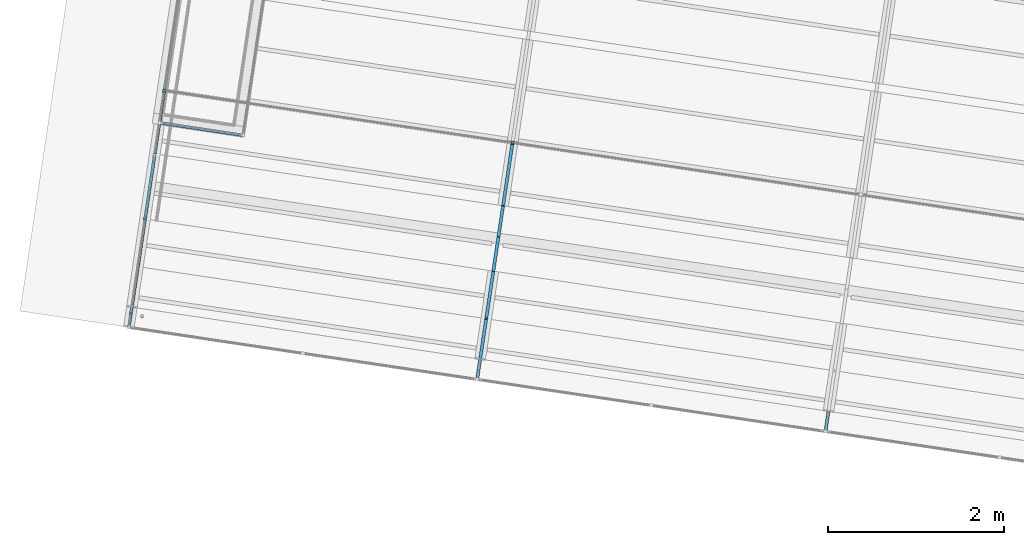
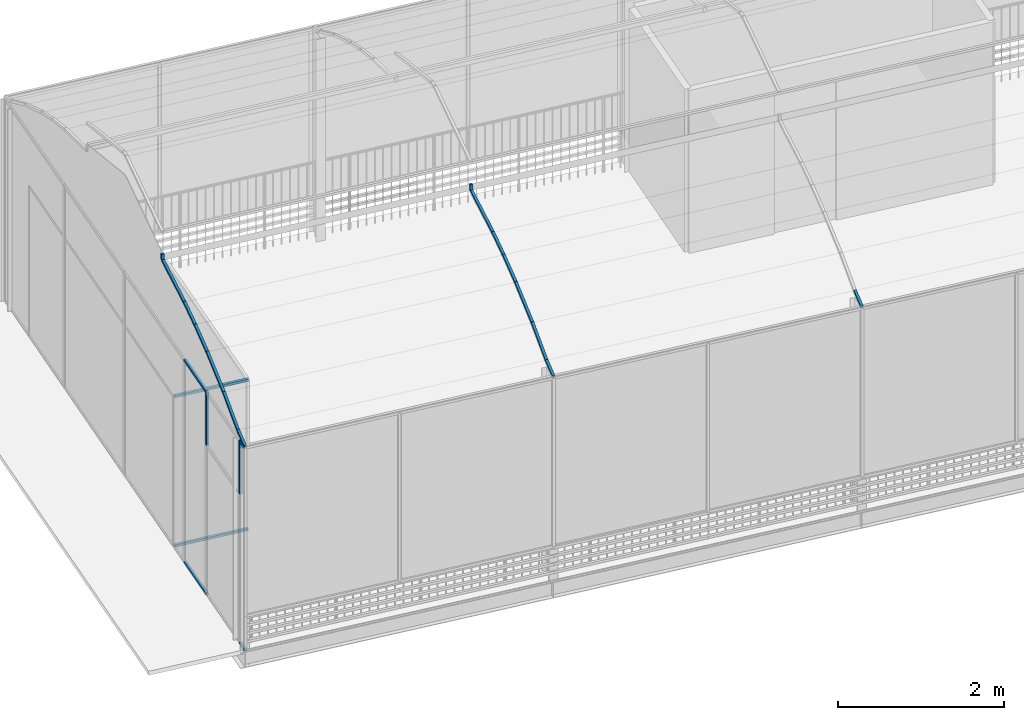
# One storey, part 18 of 34: 23 members, 1 element without a shape of its own.
"""IFC4 building model written with IfcOpenShell, lengths in metres."""

import ifcopenshell
import ifcopenshell.guid

model = None  # the IFC model being written
_history = None  # IfcOwnerHistory: only IFC2X3 demands one
_inside = {}  # id of a spatial element -> (the spatial element, [elements in it])
_under = {}  # id of a project, library or spatial element -> (it, [spatial elements below it])
_declared = {}  # id of a project -> (the project, [libraries it declares])
_typed = {}  # id of a type object -> (the type object, [elements of that type])
_made_of = {}  # id of a material, layer set ... -> (it, [elements and type objects made of it])


def new_model(schema):
    """Start an empty IFC model of exactly this schema.

    Asked for "IFC4X3", IfcOpenShell would pick the latest addendum, in which some entities
    have other attributes; the version numbers below select the first issue.
    IFC2X3 requires an IfcOwnerHistory on every rooted entity: one is made here for all.
    """
    global model, _history
    if schema == "IFC4X3":
        model = ifcopenshell.file(schema_version=(4, 3, 0, 0))
    else:
        model = ifcopenshell.file(schema=schema)
    _inside.clear()
    _under.clear()
    _declared.clear()
    _typed.clear()
    _made_of.clear()
    _history = None
    if model.schema == "IFC2X3":
        org = make("IfcOrganization", Name="unknown")
        user = make(
            "IfcPersonAndOrganization",
            ThePerson=make("IfcPerson", FamilyName="unknown"),
            TheOrganization=org,
        )
        app = make(
            "IfcApplication",
            ApplicationDeveloper=org,
            Version="unknown",
            ApplicationFullName="unknown",
            ApplicationIdentifier="unknown",
        )
        _history = make(
            "IfcOwnerHistory",
            OwningUser=user,
            OwningApplication=app,
            ChangeAction="ADDED",
            CreationDate=0,
        )
    return model


def make(cls, **values):
    """One entity of the class cls with the attributes given. An attribute that is None is left unset."""
    return model.create_entity(
        cls, **{name: value for name, value in values.items() if value is not None}
    )


def rooted(cls, **values):
    """An entity with a GlobalId (a new one), such as an element, a storey or a relation."""
    return make(cls, GlobalId=ifcopenshell.guid.new(), OwnerHistory=_history, **values)


def si_unit(unit_type, name, prefix=None):
    """IfcSIUnit, for example si_unit("LENGTHUNIT", "METRE", prefix="MILLI")."""
    return make("IfcSIUnit", UnitType=unit_type, Prefix=prefix, Name=name)


def assignment(units):
    """IfcUnitAssignment: the units of a project."""
    return None if units is None else make("IfcUnitAssignment", Units=units)


def point(xyz):
    """IfcCartesianPoint."""
    return None if xyz is None else make("IfcCartesianPoint", Coordinates=xyz)


def direction(xyz):
    """IfcDirection."""
    return None if xyz is None else make("IfcDirection", DirectionRatios=xyz)


def frame(location, z_axis=None, x_axis=None):
    """IfcAxis2Placement3D, a coordinate frame: its origin and axes. An axis left out is left unset."""
    return make(
        "IfcAxis2Placement3D",
        Location=point(location),
        Axis=direction(z_axis),
        RefDirection=direction(x_axis),
    )


def origin_with_axes():
    """The frame at (0, 0, 0) with the z axis (0, 0, 1) and the x axis (1, 0, 0) written out."""
    return frame((0.0, 0.0, 0.0), z_axis=(0.0, 0.0, 1.0), x_axis=(1.0, 0.0, 0.0))


def place(relative_to, where):
    """IfcLocalPlacement: puts the frame where relative to a parent placement (None: the world)."""
    return make(
        "IfcLocalPlacement", PlacementRelTo=relative_to, RelativePlacement=where
    )


def context(
    kind, dimensions, precision=None, world=None, true_north=None, identifier=None
):
    """IfcGeometricRepresentationContext, for example the 3D "Model" context."""
    return make(
        "IfcGeometricRepresentationContext",
        ContextIdentifier=identifier,
        ContextType=kind,
        CoordinateSpaceDimension=dimensions,
        Precision=precision,
        WorldCoordinateSystem=world,
        TrueNorth=true_north,
    )


def subcontext(parent, identifier, kind, view, scale=None):
    """IfcGeometricRepresentationSubContext, for example "Body" below "Model"."""
    return make(
        "IfcGeometricRepresentationSubContext",
        ContextIdentifier=identifier,
        ContextType=kind,
        ParentContext=parent,
        TargetScale=scale,
        TargetView=view,
    )


def project(units=None, contexts=None):
    """IfcProject with its units and contexts."""
    return rooted(
        "IfcProject",
        Name="project",
        RepresentationContexts=contexts,
        UnitsInContext=assignment(units),
    )


def spatial(cls, under=None, at=None, **own):
    """A site, building, storey or space (cls), placed at a placement, below another one or the project."""
    s = rooted(cls, ObjectPlacement=at, **own)
    if under is not None:
        _under.setdefault(under.id(), (under, []))[1].append(s)
    return s


def profile(cls, at=None, kind="AREA", **sizes):
    """A parametric profile (cls). Its sizes go by their IFC names, for example OverallWidth=200.0."""
    return make(cls, ProfileType=kind, Position=at, **sizes)


def rectangle(**sizes):
    """IfcRectangleProfileDef."""
    return profile("IfcRectangleProfileDef", **sizes)


def extrude(swept, where, along, depth):
    """IfcExtrudedAreaSolid: the profile swept, set in the frame where, extruded along a direction by depth."""
    return make(
        "IfcExtrudedAreaSolid",
        SweptArea=swept,
        Position=where,
        ExtrudedDirection=direction(along),
        Depth=depth,
    )


def shape(context_of_items, identifier, shape_type, items):
    """IfcShapeRepresentation: the items that make up one representation, for example the "Body"."""
    return make(
        "IfcShapeRepresentation",
        ContextOfItems=context_of_items,
        RepresentationIdentifier=identifier,
        RepresentationType=shape_type,
        Items=items,
    )


def material(Name=None, Category=None):
    """IfcMaterial."""
    return make("IfcMaterial", Name=Name, Category=Category)


def material_profile(
    of_material, cross_section, Name=None, Category=None, Priority=None
):
    """IfcMaterialProfile: a cross section and its material."""
    return make(
        "IfcMaterialProfile",
        Name=Name,
        Material=of_material,
        Profile=cross_section,
        Priority=Priority,
        Category=Category,
    )


def profile_set(profiles, Name=None, composite=None):
    """IfcMaterialProfileSet."""
    return make(
        "IfcMaterialProfileSet",
        Name=Name,
        MaterialProfiles=profiles,
        CompositeProfile=composite,
    )


def profile_usage(for_profile_set, cardinal=None, extent=None):
    """IfcMaterialProfileSetUsage: how a profile set lies along its element."""
    return make(
        "IfcMaterialProfileSetUsage",
        ForProfileSet=for_profile_set,
        CardinalPoint=cardinal,
        ReferenceExtent=extent,
    )


def made_of(thing, what):
    """Note that an element or type object is made of a material, layer set ...; save() writes the relation."""
    if what is not None:
        _made_of.setdefault(what.id(), (what, []))[1].append(thing)
    return thing


def type_object(cls, material=None, **own):
    """A type object (cls), such as IfcWallType, which elements share."""
    return made_of(rooted(cls, **own), material)


def element(
    cls,
    number,
    at=None,
    inside=None,
    cuts=None,
    type_object=None,
    material=None,
    context=None,
    identifier="Body",
    shape_type=None,
    held_by="IfcProductDefinitionShape",
    body=None,
    shapes=None,
    **own,
):
    """One element of the class cls, such as IfcWall. Its Tag is "e" and its number.

    at: its placement. inside: the storey or other place that contains it. cuts: it is an
    opening in that element (IfcRelVoidsElement). A single representation is given by context,
    identifier, shape_type and body (its items); several are given by shapes. held_by: the class
    of the entity that holds the representations. save() writes the other relations.
    """
    e = rooted(cls, Tag="e%d" % number, ObjectPlacement=at, **own)
    if body is not None:
        shapes = [shape(context, identifier, shape_type, body)]
    if shapes is not None:
        e.Representation = make(held_by, Representations=shapes)
    if inside is not None:
        _inside.setdefault(inside.id(), (inside, []))[1].append(e)
    if cuts is not None:
        rooted(
            "IfcRelVoidsElement", RelatingBuildingElement=cuts, RelatedOpeningElement=e
        )
    if type_object is not None:
        _typed.setdefault(type_object.id(), (type_object, []))[1].append(e)
    return made_of(e, material)


def aggregate(whole, parts):
    """IfcRelAggregates: a whole, such as a stair, and the parts it consists of."""
    return rooted("IfcRelAggregates", RelatingObject=whole, RelatedObjects=parts)


def save(model, path):
    """Write the relations noted so far, then the file.

    IfcRelAggregates (storeys below a building ...), IfcRelContainedInSpatialStructure (elements
    in a storey), IfcRelDefinesByType, IfcRelAssociatesMaterial and IfcRelDeclares: one each for
    every whole, place, type object, material and project.
    """
    for whole, parts in _under.values():
        aggregate(whole, parts)
    for where, things in _inside.values():
        rooted(
            "IfcRelContainedInSpatialStructure",
            RelatedElements=things,
            RelatingStructure=where,
        )
    for kind, things in _typed.values():
        rooted("IfcRelDefinesByType", RelatedObjects=things, RelatingType=kind)
    for what, things in _made_of.values():
        rooted("IfcRelAssociatesMaterial", RelatedObjects=things, RelatingMaterial=what)
    for by, libraries in _declared.values():
        rooted("IfcRelDeclares", RelatingContext=by, RelatedDefinitions=libraries)
    model.write(path)


model = new_model("IFC4")

# Units and contexts
model_context = context("Model", 3, precision=1e-05, world=origin_with_axes(), true_north=direction((0.0, 1.0)))
body_context = subcontext(model_context, "Body", "Model", "MODEL_VIEW")
ifc_project = project(units=[si_unit("LENGTHUNIT", "METRE"), si_unit("AREAUNIT", "SQUARE_METRE"), si_unit("VOLUMEUNIT", "CUBIC_METRE")], contexts=[model_context])

# Site, building, storey
site_placement = place(None, origin_with_axes())
site = spatial("IfcSite", under=ifc_project, at=site_placement, Name="Lares · Rua das Mercês · artigo 4771")
building_placement = place(site_placement, frame((15.0, 9.7, 14.65), z_axis=(0.0, 0.0, 1.0), x_axis=(0.989015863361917, -0.147809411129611, 0.0)))
building = spatial("IfcBuilding", under=site, at=building_placement, Name="Casa Sobreposta")
storey_placement = place(building_placement, frame((0.0, 0.0, 3.24), z_axis=(0.0, 0.0, 1.0), x_axis=(1.0, 0.0, 0.0)))
storey = spatial("IfcBuildingStorey", under=building, at=storey_placement, Name="01 · Jardim de inverno", Elevation=17.89)

# Members
ifc_material_1 = material(Name="Aço pintado / Stahl lackiert", Category="steel")
ifc_material_profile = material_profile(ifc_material_1, rectangle(XDim=0.035, YDim=0.035))
ifc_profile_set = profile_set([ifc_material_profile], Name="R0.035")
ifc_profile_usage_1 = profile_usage(ifc_profile_set)
member_type = type_object("IfcMemberType", Name="R0.035 / steel", PredefinedType="NOTDEFINED", material=ifc_profile_set)
member_1_placement = place(storey_placement, frame((0.0, -1.35, 2.2), z_axis=(0.0, 0.0, 1.0), x_axis=(1.0, 0.0, 0.0)))
element("IfcMember", 1, at=member_1_placement, inside=storey, type_object=member_type, material=ifc_profile_usage_1, Name="Varanda · bandeira da porta · montante", context=body_context, shape_type="SweptSolid", body=[
    extrude(rectangle(XDim=0.035, YDim=0.035), origin_with_axes(), (0.0, 0.0, 1.0), 0.78),
])
ifc_profile_usage_2 = profile_usage(ifc_profile_set)
member_2_placement = place(storey_placement, frame((0.0, -0.25, 2.2), z_axis=(0.0, 0.0, 1.0), x_axis=(1.0, 0.0, 0.0)))
element("IfcMember", 2, at=member_2_placement, inside=storey, type_object=member_type, material=ifc_profile_usage_2, Name="Varanda · bandeira da porta · montante", context=body_context, shape_type="SweptSolid", body=[
    extrude(rectangle(XDim=0.035, YDim=0.035), origin_with_axes(), (0.0, 0.0, 1.0), 0.78),
])
ifc_profile_usage_3 = profile_usage(ifc_profile_set)
member_3_placement = place(storey_placement, frame((0.0, -1.5, 0.0), z_axis=(0.0, 1.0, 0.0), x_axis=(1.0, 0.0, 0.0)))
element("IfcMember", 3, at=member_3_placement, inside=storey, type_object=member_type, material=ifc_profile_usage_3, Name="Varanda · vidro lateral · travessa", context=body_context, shape_type="SweptSolid", body=[
    extrude(rectangle(XDim=0.035, YDim=0.035), origin_with_axes(), (0.0, 0.0, 1.0), 0.15),
])
ifc_profile_usage_4 = profile_usage(ifc_profile_set)
member_4_placement = place(storey_placement, frame((0.0, -1.5, 2.98), z_axis=(0.0, 1.0, 0.0), x_axis=(1.0, 0.0, 0.0)))
element("IfcMember", 4, at=member_4_placement, inside=storey, type_object=member_type, material=ifc_profile_usage_4, Name="Varanda · vidro lateral · travessa", context=body_context, shape_type="SweptSolid", body=[
    extrude(rectangle(XDim=0.035, YDim=0.035), origin_with_axes(), (0.0, 0.0, 1.0), 0.15),
])
ifc_profile_usage_5 = profile_usage(ifc_profile_set)
member_5_placement = place(storey_placement, frame((0.0, -0.25, 0.0), z_axis=(0.0, 1.0, 0.0), x_axis=(1.0, 0.0, 0.0)))
element("IfcMember", 5, at=member_5_placement, inside=storey, type_object=member_type, material=ifc_profile_usage_5, Name="Varanda · vidro lateral · travessa", context=body_context, shape_type="SweptSolid", body=[
    extrude(rectangle(XDim=0.035, YDim=0.035), origin_with_axes(), (0.0, 0.0, 1.0), 0.725),
])
ifc_profile_usage_6 = profile_usage(ifc_profile_set)
member_6_placement = place(storey_placement, frame((0.0, -0.25, 2.98), z_axis=(0.0, 1.0, 0.0), x_axis=(1.0, 0.0, 0.0)))
element("IfcMember", 6, at=member_6_placement, inside=storey, type_object=member_type, material=ifc_profile_usage_6, Name="Varanda · vidro lateral · travessa", context=body_context, shape_type="SweptSolid", body=[
    extrude(rectangle(XDim=0.035, YDim=0.035), origin_with_axes(), (0.0, 0.0, 1.0), 0.725),
])

# Roof, members
ifc_material_2 = material(Name="Vidro / Normalglas", Category="glass")
roof_placement = place(storey_placement, frame((0.0, 0.0, -3.24), z_axis=(0.0, 0.0, 1.0), x_axis=(1.0, 0.0, 0.0)))
roof = element("IfcRoof", 7, at=roof_placement, inside=storey, material=ifc_material_2, Name="Cobertura translúcida da estufa", PredefinedType="BARREL_ROOF")
ifc_profile_usage_7 = profile_usage(ifc_profile_set)
member_7_placement = place(roof_placement, frame((0.0, -1.5, 6.23430000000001), z_axis=(0.0, 0.932991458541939, 0.35989851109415), x_axis=(1.0, 0.0, 0.0)))
member_7 = element("IfcMember", 8, at=member_7_placement, type_object=member_type, material=ifc_profile_usage_7, Name="Arco estufa 0/0", context=body_context, shape_type="SweptSolid", body=[
    extrude(rectangle(XDim=0.035, YDim=0.035), origin_with_axes(), (0.0, 0.0, 1.0), 0.249032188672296),
])
ifc_profile_usage_8 = profile_usage(ifc_profile_set)
member_8_placement = place(roof_placement, frame((4.0, -1.5, 6.23430000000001), z_axis=(0.0, 0.932991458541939, 0.35989851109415), x_axis=(1.0, 0.0, 0.0)))
member_8 = element("IfcMember", 9, at=member_8_placement, type_object=member_type, material=ifc_profile_usage_8, Name="Arco estufa 4/0", context=body_context, shape_type="SweptSolid", body=[
    extrude(rectangle(XDim=0.035, YDim=0.035), origin_with_axes(), (0.0, 0.0, 1.0), 0.249032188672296),
])
ifc_profile_usage_9 = profile_usage(ifc_profile_set)
member_9_placement = place(roof_placement, frame((8.0, -1.5, 6.23430000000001), z_axis=(0.0, 0.932991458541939, 0.35989851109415), x_axis=(1.0, 0.0, 0.0)))
member_9 = element("IfcMember", 10, at=member_9_placement, type_object=member_type, material=ifc_profile_usage_9, Name="Arco estufa 8/0", context=body_context, shape_type="SweptSolid", body=[
    extrude(rectangle(XDim=0.035, YDim=0.035), origin_with_axes(), (0.0, 0.0, 1.0), 0.249032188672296),
])
ifc_profile_usage_10 = profile_usage(ifc_profile_set)
member_10_placement = place(roof_placement, frame((0.0, -1.26765509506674, 6.32392631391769), z_axis=(0.0, 0.878851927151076, 0.477094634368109), x_axis=(1.0, 0.0, 0.0)))
member_10 = element("IfcMember", 11, at=member_10_placement, type_object=member_type, material=ifc_profile_usage_10, Name="Arco estufa 0/1", context=body_context, shape_type="SweptSolid", body=[
    extrude(rectangle(XDim=0.035, YDim=0.035), origin_with_axes(), (0.0, 0.0, 1.0), 0.52863528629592),
])
ifc_profile_usage_11 = profile_usage(ifc_profile_set)
member_11_placement = place(roof_placement, frame((4.0, -1.26765509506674, 6.32392631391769), z_axis=(0.0, 0.878851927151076, 0.477094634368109), x_axis=(1.0, 0.0, 0.0)))
member_11 = element("IfcMember", 12, at=member_11_placement, type_object=member_type, material=ifc_profile_usage_11, Name="Arco estufa 4/1", context=body_context, shape_type="SweptSolid", body=[
    extrude(rectangle(XDim=0.035, YDim=0.035), origin_with_axes(), (0.0, 0.0, 1.0), 0.52863528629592),
])
ifc_profile_usage_12 = profile_usage(ifc_profile_set)
member_12_placement = place(roof_placement, frame((0.0, -0.803062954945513, 6.57613537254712), z_axis=(0.0, 0.915885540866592, 0.401439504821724), x_axis=(1.0, 0.0, 0.0)))
member_12 = element("IfcMember", 13, at=member_12_placement, type_object=member_type, material=ifc_profile_usage_12, Name="Arco estufa 0/2", context=body_context, shape_type="SweptSolid", body=[
    extrude(rectangle(XDim=0.035, YDim=0.035), origin_with_axes(), (0.0, 0.0, 1.0), 0.596771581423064),
])
ifc_profile_usage_13 = profile_usage(ifc_profile_set)
member_13_placement = place(roof_placement, frame((4.0, -0.803062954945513, 6.57613537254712), z_axis=(0.0, 0.915885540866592, 0.401439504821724), x_axis=(1.0, 0.0, 0.0)))
member_13 = element("IfcMember", 14, at=member_13_placement, type_object=member_type, material=ifc_profile_usage_13, Name="Arco estufa 4/2", context=body_context, shape_type="SweptSolid", body=[
    extrude(rectangle(XDim=0.035, YDim=0.035), origin_with_axes(), (0.0, 0.0, 1.0), 0.596771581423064),
])
ifc_profile_usage_14 = profile_usage(ifc_profile_set)
member_14_placement = place(roof_placement, frame((0.0, -0.256488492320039, 6.81570306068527), z_axis=(0.0, 0.942820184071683, 0.333301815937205), x_axis=(1.0, 0.0, 0.0)))
member_14 = element("IfcMember", 15, at=member_14_placement, type_object=member_type, material=ifc_profile_usage_14, Name="Arco estufa 0/3", context=body_context, shape_type="SweptSolid", body=[
    extrude(rectangle(XDim=0.035, YDim=0.035), origin_with_axes(), (0.0, 0.0, 1.0), 0.423025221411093),
])
ifc_profile_usage_15 = profile_usage(ifc_profile_set)
member_15_placement = place(roof_placement, frame((4.0, -0.256488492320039, 6.81570306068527), z_axis=(0.0, 0.942820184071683, 0.333301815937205), x_axis=(1.0, 0.0, 0.0)))
member_15 = element("IfcMember", 16, at=member_15_placement, type_object=member_type, material=ifc_profile_usage_15, Name="Arco estufa 4/3", context=body_context, shape_type="SweptSolid", body=[
    extrude(rectangle(XDim=0.035, YDim=0.035), origin_with_axes(), (0.0, 0.0, 1.0), 0.423025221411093),
])
ifc_profile_usage_16 = profile_usage(ifc_profile_set)
member_16_placement = place(roof_placement, frame((0.0, 0.142348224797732, 6.95669813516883), z_axis=(0.0, 0.959692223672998, 0.281053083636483), x_axis=(1.0, 0.0, 0.0)))
member_16 = element("IfcMember", 17, at=member_16_placement, type_object=member_type, material=ifc_profile_usage_16, Name="Arco estufa 0/4", context=body_context, shape_type="SweptSolid", body=[
    extrude(rectangle(XDim=0.035, YDim=0.035), origin_with_axes(), (0.0, 0.0, 1.0), 0.365557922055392),
])
ifc_profile_usage_17 = profile_usage(ifc_profile_set)
member_17_placement = place(roof_placement, frame((4.0, 0.142348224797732, 6.95669813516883), z_axis=(0.0, 0.959692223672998, 0.281053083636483), x_axis=(1.0, 0.0, 0.0)))
member_17 = element("IfcMember", 18, at=member_17_placement, type_object=member_type, material=ifc_profile_usage_17, Name="Arco estufa 4/4", context=body_context, shape_type="SweptSolid", body=[
    extrude(rectangle(XDim=0.035, YDim=0.035), origin_with_axes(), (0.0, 0.0, 1.0), 0.365557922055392),
])
ifc_profile_usage_18 = profile_usage(ifc_profile_set)
member_18_placement = place(roof_placement, frame((0.0, 0.493171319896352, 7.05943931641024), z_axis=(0.0, 0.977995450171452, 0.208626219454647), x_axis=(1.0, 0.0, 0.0)))
member_18 = element("IfcMember", 19, at=member_18_placement, type_object=member_type, material=ifc_profile_usage_18, Name="Arco estufa 0/5", context=body_context, shape_type="SweptSolid", body=[
    extrude(rectangle(XDim=0.035, YDim=0.035), origin_with_axes(), (0.0, 0.0, 1.0), 0.737465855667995),
])
ifc_profile_usage_19 = profile_usage(ifc_profile_set)
member_19_placement = place(roof_placement, frame((4.0, 0.493171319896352, 7.05943931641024), z_axis=(0.0, 0.977995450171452, 0.208626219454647), x_axis=(1.0, 0.0, 0.0)))
member_19 = element("IfcMember", 20, at=member_19_placement, type_object=member_type, material=ifc_profile_usage_19, Name="Arco estufa 4/5", context=body_context, shape_type="SweptSolid", body=[
    extrude(rectangle(XDim=0.035, YDim=0.035), origin_with_axes(), (0.0, 0.0, 1.0), 0.737465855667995),
])
ifc_profile_usage_20 = profile_usage(ifc_profile_set)
member_20_placement = place(roof_placement, frame((0.0, 1.21440957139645, 7.21329402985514), z_axis=(0.0, 0.0686229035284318, 0.997642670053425), x_axis=(1.0, 0.0, 0.0)))
member_20 = element("IfcMember", 21, at=member_20_placement, type_object=member_type, material=ifc_profile_usage_20, Name="Arco estufa 0/6", context=body_context, shape_type="SweptSolid", body=[
    extrude(rectangle(XDim=0.035, YDim=0.035), origin_with_axes(), (0.0, 0.0, 1.0), 0.0875893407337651),
])
ifc_profile_usage_21 = profile_usage(ifc_profile_set)
member_21_placement = place(roof_placement, frame((4.0, 1.21440957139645, 7.21329402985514), z_axis=(0.0, 0.0686229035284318, 0.997642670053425), x_axis=(1.0, 0.0, 0.0)))
member_21 = element("IfcMember", 22, at=member_21_placement, type_object=member_type, material=ifc_profile_usage_21, Name="Arco estufa 4/6", context=body_context, shape_type="SweptSolid", body=[
    extrude(rectangle(XDim=0.035, YDim=0.035), origin_with_axes(), (0.0, 0.0, 1.0), 0.0875893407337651),
])
aggregate(roof, [member_7, member_8, member_9, member_10, member_11, member_12, member_13, member_14, member_15, member_16, member_17, member_18, member_19, member_20, member_21])

# Members
ifc_profile_usage_22 = profile_usage(ifc_profile_set)
member_22_placement = place(storey_placement, frame((0.01, 0.85, 0.0), z_axis=(1.0, 0.0, 0.0), x_axis=(0.0, -1.0, 0.0)))
element("IfcMember", 23, at=member_22_placement, inside=storey, type_object=member_type, material=ifc_profile_usage_22, Name="Caixa térmica 1 · south · travessa", context=body_context, shape_type="SweptSolid", body=[
    extrude(rectangle(XDim=0.035, YDim=0.035), origin_with_axes(), (0.0, 0.0, 1.0), 0.95),
])
ifc_profile_usage_23 = profile_usage(ifc_profile_set)
member_23_placement = place(storey_placement, frame((0.01, 0.85, 2.2), z_axis=(1.0, 0.0, 0.0), x_axis=(0.0, -1.0, 0.0)))
element("IfcMember", 24, at=member_23_placement, inside=storey, type_object=member_type, material=ifc_profile_usage_23, Name="Caixa térmica 1 · south · travessa", context=body_context, shape_type="SweptSolid", body=[
    extrude(rectangle(XDim=0.035, YDim=0.035), origin_with_axes(), (0.0, 0.0, 1.0), 0.95),
])

save(model, "model.ifc")
